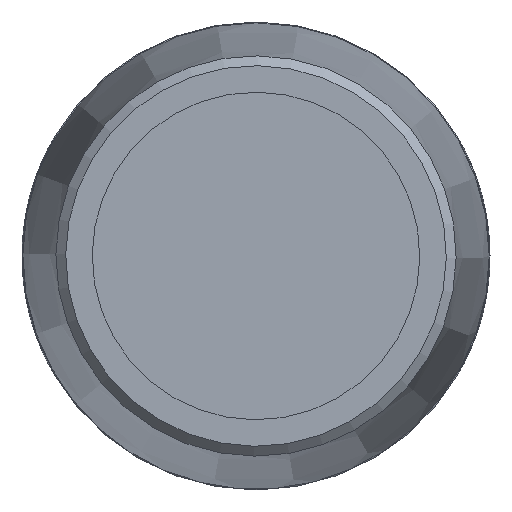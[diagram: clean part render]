
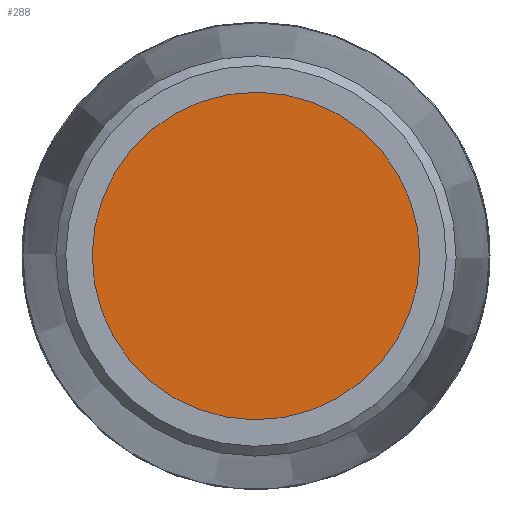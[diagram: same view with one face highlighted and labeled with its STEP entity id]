
A CAD part, left-side view. The second image highlights one B-rep face of the part: STEP entity #288.
In plain terms, the highlighted planar face has unit normal (-1, 0, 0).
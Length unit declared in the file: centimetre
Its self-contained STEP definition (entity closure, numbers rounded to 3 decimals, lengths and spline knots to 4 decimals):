
#46=PLANE('',#317);
#71=FACE_OUTER_BOUND('',#97,.T.);
#97=EDGE_LOOP('',(#203));
#128=CIRCLE('',#316,0.525);
#142=VERTEX_POINT('',#437);
#168=EDGE_CURVE('',#142,#142,#128,.T.);
#203=ORIENTED_EDGE('',*,*,#168,.T.);
#288=ADVANCED_FACE('',(#71),#46,.T.);
#316=AXIS2_PLACEMENT_3D('',#438,#363,#364);
#317=AXIS2_PLACEMENT_3D('',#439,#365,#366);
#363=DIRECTION('center_axis',(-1.,0.,0.));
#364=DIRECTION('ref_axis',(0.,-0.334,-0.943));
#365=DIRECTION('center_axis',(-1.,0.,0.));
#366=DIRECTION('ref_axis',(0.,-0.334,-0.943));
#437=CARTESIAN_POINT('',(-3.9,0.4949,-0.1753));
#438=CARTESIAN_POINT('Origin',(-3.9,0.,0.));
#439=CARTESIAN_POINT('Origin',(-3.9,0.,0.));
